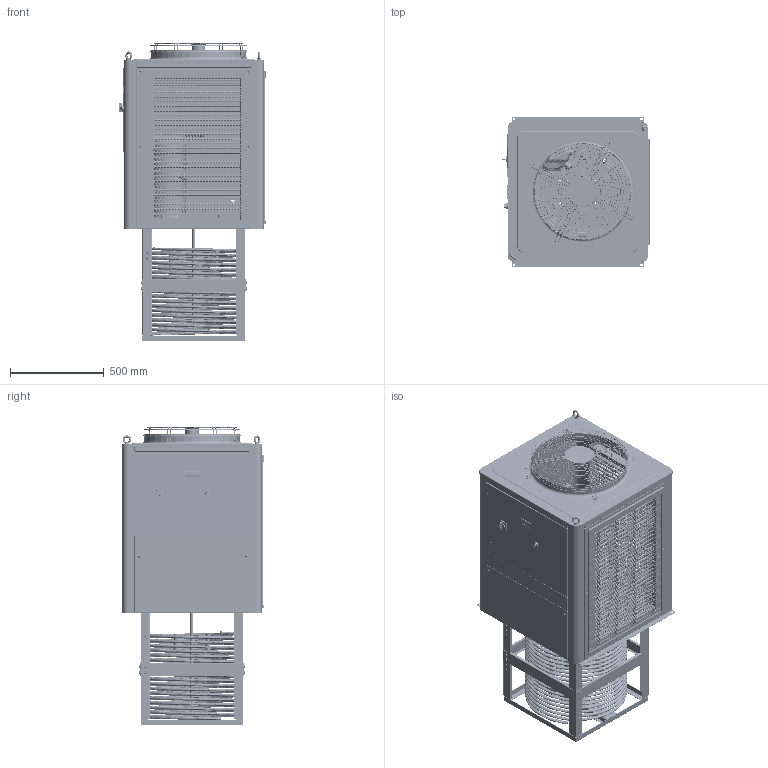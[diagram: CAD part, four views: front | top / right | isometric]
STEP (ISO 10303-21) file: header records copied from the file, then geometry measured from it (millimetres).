
FILE_DESCRIPTION (( 'STEP AP214' ), '1' );
FILE_NAME ('ECIK-120_REV04.STEP', '2025-03-06T10:15:45', ( '' ), ( '' ), 'SwSTEP 2.0', 'SolidWorks 2023', '' );
FILE_SCHEMA (( 'AUTOMOTIVE_DESIGN' ));
Length unit declared in the file: millimetre
Products named in the file (67): TE-EL-00007 - EW_971_230V.STEP_2.STEP; 5S-________380V-30A).STEP; CR-K6-00003_001_1.STEP; VR-K5-00001_000B.STEP; 5S-FD-20________-IIII-III-II-II-R32-780X780-______.STEP; VR-K5-00001_000A.STEP; 5S-ICQ-5J________.STEP; 5S-ICQ-5-______-7.STEP; 5S-III-________T1.5).STEP; 5S-ICQ-5-____2-6.STEP; CR-K5-00002_000C.STEP; CR-K7-00001_000A_1.STEP; ICQ-5J________.STEP.STEP; ECIK-120_REV04.STEP; 5S-ICQ-4HP-ICQ-3HP-1P-FB1.5p-____2P______-DCF-BK3P-____1.STEP; ECIK-120_REV04; 8S-ICQ-8-____1.STEP; CR-K7-00002_000_1.STEP; 5S-____________2.0______.STEP; CR-K5-00002_000.STEP; 5S-KW-02-10VR61______.STEP; 5S-ICQ-5-__________-3.STEP; 5S-ICQ-5J__________.STEP; Gabbia telescopica ECIK 070-120-160_CONTRATTA_1.STEP; 5S-ICQ-5-______.STEP; VR-K5-00001_000.STEP; CR-AG-00015_000_1.STEP; SE-RR-00025_000_2.STEP; CR-K5-00002_000B.STEP; 5S-ICQ-4HP-ICQ-3HP-1P-______-1.5HP.STEP; ICQ-8P____2.STEP; 5S-FD-20________-IIII-III-II-FB-KG-________.STEP; CR-K7-00001_000C_1.STEP; VR-K5-00004_000.STEP; CR-K7-00001_000_1.STEP; SELETTORE_PICCOLO 54_2.STEP; 5S-ICQ-5-____________.STEP; VR-K5-00003_000.STEP; 5S-FD-20________-IIII-III-II-II-500____.STEP; Targhetta sicurezza_2.STEP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
Assembly tree (153 placements, depth 6):
  ECIK-120_REV04
    ECIK-120_REV04.STEP
      corredo icq-5.STEP
        Gabbia telescopica ECIK 070-120-160_CONTRATTA_1.STEP
          CR-K7-00001_000_1.STEP
            CR-K7-00001_000A_1.STEP  x4
            CR-K7-00001_000C_1.STEP  x4
            CR-K7-00001_000B_1.STEP
          CR-K6-00003_001_1.STEP  x4
          CR-K7-00002_000_1.STEP  x4
        CR-K5-00002_000.STEP
          CR-K5-00002_000C.STEP
          CR-K5-00002_000A.STEP
          CR-K5-00002_000B.STEP
        VR-K5-00001_000.STEP
          VR-K5-00001_000A.STEP
          VR-K5-00001_000B.STEP  x2
        ______.STEP(2).STEP
        Targhetta sicurezza_2.STEP
        TE-EL-00007 - EW_971_230V.STEP_2.STEP
        SELETTORE_NERO_BK_2.STEP
        SE-RR-00025_000_2.STEP
        SELETTORE_PICCOLO 54_2.STEP
        VR-K5-00002_000.STEP
        VR-K5-00004_000.STEP
        VR-K5-00003_000.STEP
      ICQ-5J（方形盘管，双面冷凝器）(2).STEP
        5S-FD-__5P-__________.STEP
          5S-FD-__5P________-500____.STEP
          5S-FD-20________-IIII-III-II-FB-KG-________.STEP  x2
        5S-ICQ-5J________.STEP
          ICQ-5J________.STEP.STEP
            ______-0.STEP.STEP
            16800106.STEP.STEP
            15.88____x55________.STEP.STEP
        5S-ICQ-5-____________.STEP  x2
          ICQ-8P____2.STEP
          ICQ-8P____1.STEP
          5S-ICQ-5-__________.STEP
          5S-ICQ-5-__________-3.STEP
        5S-ICQ-4HP-ICQ-3HP-1P-FB1.5p-____1.5P______-DCF-BK3P-____.STEP
        5S-ICQ-4HP-ICQ-3HP-1P-FB1.5p-____2P______-DCF-BK3P-____1.STEP  x2
        5S-ICQ-4HP-ICQ-3HP-1P-1.5HP-____________.STEP  x2
        5S-ICQ-4HP-ICQ-3HP-1P-1.5HP-____________-4.STEP  x2
        5S-ICQ-4HP-ICQ-3HP-1P-______-1.5HP.STEP  x2
        5S-ICQ-4HP-ICQ-3HP-1P-FB1.5p-____.STEP
        5S-ICQ-4HP-ICQ-3HP-1P-FB1.5p-____2P______-DCF-BK3P-______(____).STEP
        5S-FD-20________-IIII-III-II-II-500____.STEP
        5S-________380V-30A).STEP
        5S-KW-02-10VR61______.STEP
        eyebolts gb_GB_FASTENER_SCREWS_FRS M10-N.STEP  x2
        5S-________.STEP  x2
        5S-____________2.0______.STEP
        5S-FD-20________-IIII-III-II-II-R32-780X780-______.STEP  x4
        5S-III-________T1.5).STEP  x2
        5S-ICQ-5-______.STEP
        5S-ICQ-5J__________.STEP  x2
        8S-ICQ-8-____1.STEP
        5S-ICQ-5-____2-6.STEP
        5S-ICQ-5-____3.STEP
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Bounding box: 786.08 x 800.8 x 1597.4 mm (x, y, z)
Volume: 29930824.8 mm3; surface area: 19912770.5 mm2
Topology: 204 solids, 204 shells, 32455 faces, 91024 edges, 59177 vertices
Faces by surface type: plane 25513, cylinder 4211, torus 2188, cone 310, bspline 210, sphere 23
Entity records: 585782 total; most frequent: CARTESIAN_POINT 136131, ORIENTED_EDGE 94314, DIRECTION 87149, EDGE_CURVE 47157, VECTOR 39211, LINE 39211, VERTEX_POINT 30552, AXIS2_PLACEMENT_3D 23969
